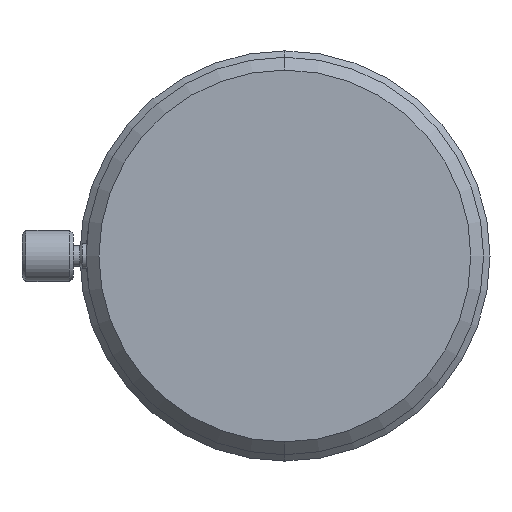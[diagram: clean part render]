
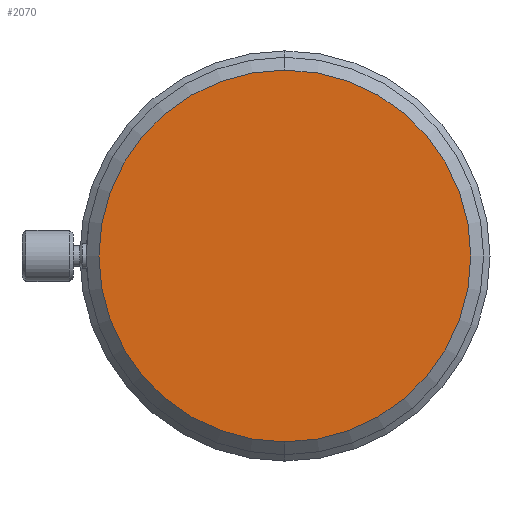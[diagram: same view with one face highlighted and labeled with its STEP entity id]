
A CAD part, left-side view. The second image highlights one B-rep face of the part: STEP entity #2070.
In plain terms, the highlighted planar face has unit normal (-1, 0, 0).
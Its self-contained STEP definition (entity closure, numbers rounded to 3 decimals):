
#32 = ORIENTED_EDGE ( 'NONE', *, *, #1184, .T. ) ;
#38 = DIRECTION ( 'NONE',  ( 0., 0., -1. ) ) ;
#91 = VERTEX_POINT ( 'NONE', #2056 ) ;
#307 = CIRCLE ( 'NONE', #1564, 14.5 ) ;
#347 = CARTESIAN_POINT ( 'NONE',  ( -70.226, 0., 0. ) ) ;
#370 = CARTESIAN_POINT ( 'NONE',  ( -70.226, 0., -14.5 ) ) ;
#475 = CARTESIAN_POINT ( 'NONE',  ( -70.226, 0., 0. ) ) ;
#552 = DIRECTION ( 'NONE',  ( 1., 0., 0. ) ) ;
#727 = ORIENTED_EDGE ( 'NONE', *, *, #1939, .T. ) ;
#869 = PLANE ( 'NONE',  #1116 ) ;
#942 = AXIS2_PLACEMENT_3D ( 'NONE', #475, #994, #1988 ) ;
#994 = DIRECTION ( 'NONE',  ( -1., 0., 0. ) ) ;
#1116 = AXIS2_PLACEMENT_3D ( 'NONE', #347, #552, #38 ) ;
#1152 = EDGE_LOOP ( 'NONE', ( #727, #32 ) ) ;
#1184 = EDGE_CURVE ( 'NONE', #91, #2127, #1866, .T. ) ;
#1194 = CARTESIAN_POINT ( 'NONE',  ( -70.226, 0., 0. ) ) ;
#1564 = AXIS2_PLACEMENT_3D ( 'NONE', #1194, #1858, #1679 ) ;
#1679 = DIRECTION ( 'NONE',  ( 0., 0., 1. ) ) ;
#1858 = DIRECTION ( 'NONE',  ( -1., 0., 0. ) ) ;
#1866 = CIRCLE ( 'NONE', #942, 14.5 ) ;
#1939 = EDGE_CURVE ( 'NONE', #2127, #91, #307, .T. ) ;
#1988 = DIRECTION ( 'NONE',  ( 0., 0., 1. ) ) ;
#2056 = CARTESIAN_POINT ( 'NONE',  ( -70.226, 0., 14.5 ) ) ;
#2062 = FACE_OUTER_BOUND ( 'NONE', #1152, .T. ) ;
#2070 = ADVANCED_FACE ( 'NONE', ( #2062 ), #869, .F. ) ;
#2127 = VERTEX_POINT ( 'NONE', #370 ) ;
